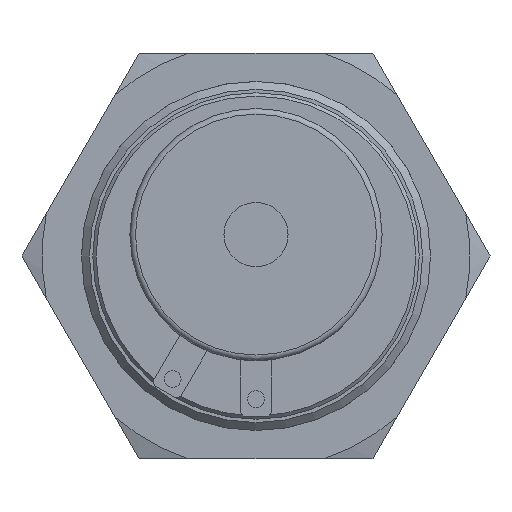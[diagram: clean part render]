
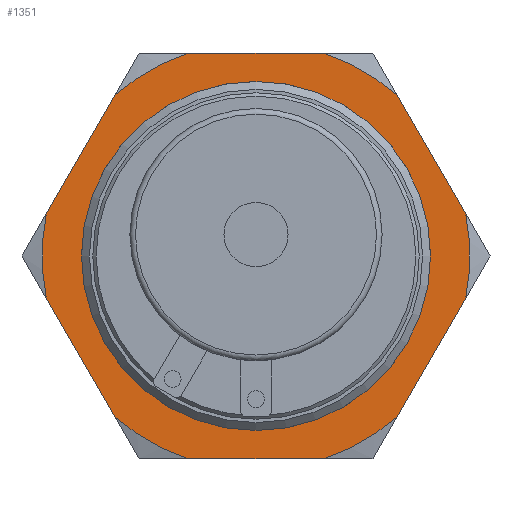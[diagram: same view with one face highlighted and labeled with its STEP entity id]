
A CAD part, front view. The second image highlights one B-rep face of the part: STEP entity #1351.
In plain terms, the highlighted planar face has unit normal (0, -1, 0).
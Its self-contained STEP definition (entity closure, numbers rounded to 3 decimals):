
#56 = CARTESIAN_POINT ( 'NONE',  ( 0., -2.5, 15.3 ) ) ;
#205 = CARTESIAN_POINT ( 'NONE',  ( 3.732, -2.5, 18.63 ) ) ;
#251 = LINE ( 'NONE', #5974, #8857 ) ;
#286 = CARTESIAN_POINT ( 'NONE',  ( 0., -2.5, 0. ) ) ;
#541 = EDGE_CURVE ( 'NONE', #1478, #4394, #1675, .T. ) ;
#697 = VERTEX_POINT ( 'NONE', #885 ) ;
#885 = CARTESIAN_POINT ( 'NONE',  ( -18., -2.5, -6.083 ) ) ;
#1014 = ORIENTED_EDGE ( 'NONE', *, *, #4200, .T. ) ;
#1015 = CARTESIAN_POINT ( 'NONE',  ( 0., -2.5, 0. ) ) ;
#1042 = ORIENTED_EDGE ( 'NONE', *, *, #541, .T. ) ;
#1113 = AXIS2_PLACEMENT_3D ( 'NONE', #8321, #5172, #11188 ) ;
#1157 = CARTESIAN_POINT ( 'NONE',  ( 0., -2.5, 0. ) ) ;
#1184 = AXIS2_PLACEMENT_3D ( 'NONE', #1157, #2018, #8145 ) ;
#1324 = VERTEX_POINT ( 'NONE', #205 ) ;
#1351 = ADVANCED_FACE ( 'NONE', ( #8262, #9961 ), #9162, .F. ) ;
#1362 = DIRECTION ( 'NONE',  ( 0., -1., 0. ) ) ;
#1378 = DIRECTION ( 'NONE',  ( 0., 0., 1. ) ) ;
#1478 = VERTEX_POINT ( 'NONE', #1543 ) ;
#1543 = CARTESIAN_POINT ( 'NONE',  ( -3.732, -2.5, -18.63 ) ) ;
#1662 = CARTESIAN_POINT ( 'NONE',  ( 0., -2.5, 0. ) ) ;
#1675 = CIRCLE ( 'NONE', #2709, 19. ) ;
#1930 = CARTESIAN_POINT ( 'NONE',  ( 0., -2.5, 0. ) ) ;
#2018 = DIRECTION ( 'NONE',  ( 0., -1., 0. ) ) ;
#2047 = VERTEX_POINT ( 'NONE', #6545 ) ;
#2072 = DIRECTION ( 'NONE',  ( 0., 0., 1. ) ) ;
#2089 = VERTEX_POINT ( 'NONE', #10601 ) ;
#2435 = ORIENTED_EDGE ( 'NONE', *, *, #6443, .F. ) ;
#2471 = CARTESIAN_POINT ( 'NONE',  ( -18., -2.5, 10.392 ) ) ;
#2709 = AXIS2_PLACEMENT_3D ( 'NONE', #1930, #7760, #11778 ) ;
#3024 = LINE ( 'NONE', #2471, #8812 ) ;
#3033 = ORIENTED_EDGE ( 'NONE', *, *, #7149, .F. ) ;
#3214 = DIRECTION ( 'NONE',  ( 0., 1., 0. ) ) ;
#3478 = ORIENTED_EDGE ( 'NONE', *, *, #3621, .F. ) ;
#3480 = DIRECTION ( 'NONE',  ( 0.866, 0., 0.5 ) ) ;
#3621 = EDGE_CURVE ( 'NONE', #2089, #11179, #8753, .T. ) ;
#3801 = DIRECTION ( 'NONE',  ( -0.866, 0., -0.5 ) ) ;
#3867 = CARTESIAN_POINT ( 'NONE',  ( 0., -2.5, 20.785 ) ) ;
#3894 = VERTEX_POINT ( 'NONE', #11232 ) ;
#4048 = EDGE_CURVE ( 'NONE', #1324, #2047, #10117, .T. ) ;
#4064 = DIRECTION ( 'NONE',  ( 0., 0., 1. ) ) ;
#4145 = VERTEX_POINT ( 'NONE', #5943 ) ;
#4200 = EDGE_CURVE ( 'NONE', #7427, #11179, #5426, .T. ) ;
#4203 = VECTOR ( 'NONE', #6045, 1000. ) ;
#4394 = VERTEX_POINT ( 'NONE', #4697 ) ;
#4413 = CIRCLE ( 'NONE', #1184, 19. ) ;
#4656 = AXIS2_PLACEMENT_3D ( 'NONE', #8196, #3214, #2072 ) ;
#4697 = CARTESIAN_POINT ( 'NONE',  ( 3.732, -2.5, -18.63 ) ) ;
#4945 = ORIENTED_EDGE ( 'NONE', *, *, #12359, .T. ) ;
#5111 = AXIS2_PLACEMENT_3D ( 'NONE', #1015, #8005, #7107 ) ;
#5172 = DIRECTION ( 'NONE',  ( 0., -1., 0. ) ) ;
#5426 = CIRCLE ( 'NONE', #9040, 19. ) ;
#5692 = DIRECTION ( 'NONE',  ( 0., 0., 1. ) ) ;
#5943 = CARTESIAN_POINT ( 'NONE',  ( -18., -2.5, 6.083 ) ) ;
#5974 = CARTESIAN_POINT ( 'NONE',  ( -18., -2.5, -10.392 ) ) ;
#6045 = DIRECTION ( 'NONE',  ( 0., 0., -1. ) ) ;
#6194 = CARTESIAN_POINT ( 'NONE',  ( 0., -2.5, -20.785 ) ) ;
#6230 = ORIENTED_EDGE ( 'NONE', *, *, #4048, .T. ) ;
#6308 = VERTEX_POINT ( 'NONE', #10992 ) ;
#6403 = LINE ( 'NONE', #8618, #10633 ) ;
#6443 = EDGE_CURVE ( 'NONE', #11244, #2047, #3024, .T. ) ;
#6545 = CARTESIAN_POINT ( 'NONE',  ( -3.732, -2.5, 18.63 ) ) ;
#6898 = EDGE_CURVE ( 'NONE', #11244, #4145, #4413, .T. ) ;
#7077 = DIRECTION ( 'NONE',  ( 0., 0., 1. ) ) ;
#7084 = CARTESIAN_POINT ( 'NONE',  ( 14.268, -2.5, -12.547 ) ) ;
#7107 = DIRECTION ( 'NONE',  ( 0., 0., 1. ) ) ;
#7149 = EDGE_CURVE ( 'NONE', #1478, #3894, #8949, .T. ) ;
#7190 = VERTEX_POINT ( 'NONE', #56 ) ;
#7361 = DIRECTION ( 'NONE',  ( 0., 1., 0. ) ) ;
#7367 = ORIENTED_EDGE ( 'NONE', *, *, #12692, .T. ) ;
#7427 = VERTEX_POINT ( 'NONE', #7084 ) ;
#7670 = EDGE_CURVE ( 'NONE', #7427, #4394, #6403, .T. ) ;
#7760 = DIRECTION ( 'NONE',  ( 0., -1., 0. ) ) ;
#7940 = VECTOR ( 'NONE', #9794, 1000. ) ;
#7987 = CARTESIAN_POINT ( 'NONE',  ( 18., -2.5, -6.083 ) ) ;
#8005 = DIRECTION ( 'NONE',  ( 0., -1., 0. ) ) ;
#8145 = DIRECTION ( 'NONE',  ( 0., 0., 1. ) ) ;
#8196 = CARTESIAN_POINT ( 'NONE',  ( 0., -2.5, 0. ) ) ;
#8262 = FACE_BOUND ( 'NONE', #10853, .T. ) ;
#8316 = CIRCLE ( 'NONE', #12424, 15.3 ) ;
#8321 = CARTESIAN_POINT ( 'NONE',  ( 0., -2.5, 0. ) ) ;
#8618 = CARTESIAN_POINT ( 'NONE',  ( 18., -2.5, -10.392 ) ) ;
#8630 = AXIS2_PLACEMENT_3D ( 'NONE', #1662, #12667, #5692 ) ;
#8634 = EDGE_LOOP ( 'NONE', ( #2435, #11168, #8738, #7367, #3033, #1042, #8905, #1014, #3478, #12536, #12371, #6230 ) ) ;
#8738 = ORIENTED_EDGE ( 'NONE', *, *, #9906, .F. ) ;
#8753 = LINE ( 'NONE', #9931, #4203 ) ;
#8812 = VECTOR ( 'NONE', #3480, 1000. ) ;
#8857 = VECTOR ( 'NONE', #7077, 1000. ) ;
#8905 = ORIENTED_EDGE ( 'NONE', *, *, #7670, .F. ) ;
#8949 = LINE ( 'NONE', #6194, #12563 ) ;
#9040 = AXIS2_PLACEMENT_3D ( 'NONE', #286, #1362, #4064 ) ;
#9162 = PLANE ( 'NONE',  #4656 ) ;
#9215 = EDGE_CURVE ( 'NONE', #1324, #6308, #12149, .T. ) ;
#9794 = DIRECTION ( 'NONE',  ( 0.866, 0., -0.5 ) ) ;
#9906 = EDGE_CURVE ( 'NONE', #697, #4145, #251, .T. ) ;
#9931 = CARTESIAN_POINT ( 'NONE',  ( 18., -2.5, 10.392 ) ) ;
#9961 = FACE_OUTER_BOUND ( 'NONE', #8634, .T. ) ;
#10006 = CARTESIAN_POINT ( 'NONE',  ( -14.268, -2.5, 12.547 ) ) ;
#10117 = CIRCLE ( 'NONE', #8630, 19. ) ;
#10601 = CARTESIAN_POINT ( 'NONE',  ( 18., -2.5, 6.083 ) ) ;
#10633 = VECTOR ( 'NONE', #3801, 1000. ) ;
#10827 = EDGE_CURVE ( 'NONE', #2089, #6308, #11308, .T. ) ;
#10853 = EDGE_LOOP ( 'NONE', ( #4945 ) ) ;
#10992 = CARTESIAN_POINT ( 'NONE',  ( 14.268, -2.5, 12.547 ) ) ;
#11168 = ORIENTED_EDGE ( 'NONE', *, *, #6898, .T. ) ;
#11179 = VERTEX_POINT ( 'NONE', #7987 ) ;
#11188 = DIRECTION ( 'NONE',  ( 0., 0., 1. ) ) ;
#11232 = CARTESIAN_POINT ( 'NONE',  ( -14.268, -2.5, -12.547 ) ) ;
#11244 = VERTEX_POINT ( 'NONE', #10006 ) ;
#11308 = CIRCLE ( 'NONE', #5111, 19. ) ;
#11366 = DIRECTION ( 'NONE',  ( -0.866, 0., 0.5 ) ) ;
#11426 = CARTESIAN_POINT ( 'NONE',  ( 0., -2.5, 0. ) ) ;
#11778 = DIRECTION ( 'NONE',  ( 0., 0., 1. ) ) ;
#12149 = LINE ( 'NONE', #3867, #7940 ) ;
#12222 = CIRCLE ( 'NONE', #1113, 19. ) ;
#12359 = EDGE_CURVE ( 'NONE', #7190, #7190, #8316, .T. ) ;
#12371 = ORIENTED_EDGE ( 'NONE', *, *, #9215, .F. ) ;
#12424 = AXIS2_PLACEMENT_3D ( 'NONE', #11426, #7361, #1378 ) ;
#12536 = ORIENTED_EDGE ( 'NONE', *, *, #10827, .T. ) ;
#12563 = VECTOR ( 'NONE', #11366, 1000. ) ;
#12667 = DIRECTION ( 'NONE',  ( 0., -1., 0. ) ) ;
#12692 = EDGE_CURVE ( 'NONE', #697, #3894, #12222, .T. ) ;
